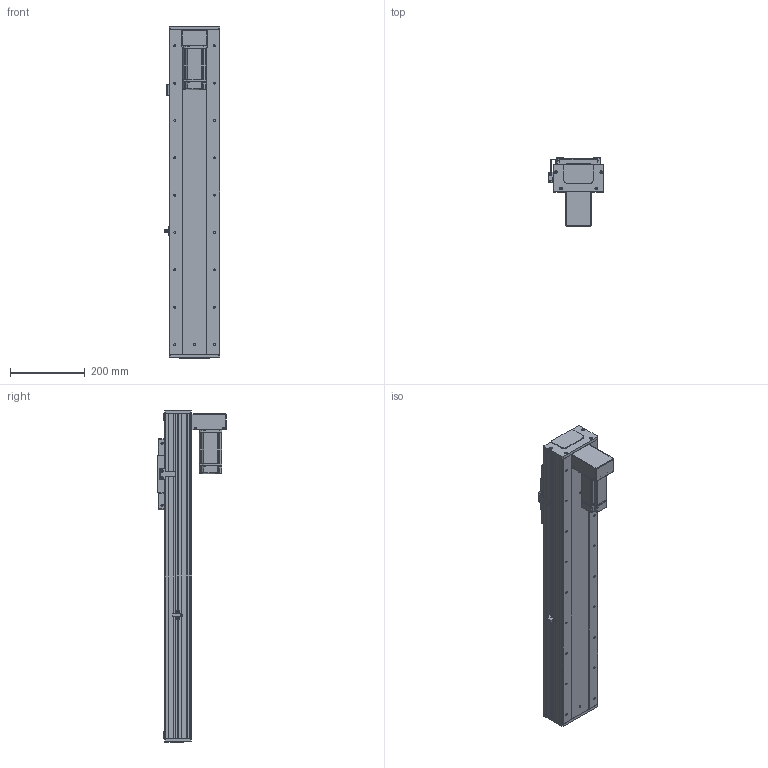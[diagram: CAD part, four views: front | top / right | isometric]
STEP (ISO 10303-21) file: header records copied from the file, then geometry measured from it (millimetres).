
FILE_DESCRIPTION (( 'STEP AP203' ), '1' );
FILE_NAME ('RY140F-L2020-300-BK.SLDASM_600.step', '2021-03-02T08:26:48', ( '盈信电脑' ), ( '东莞市道滘镇水果街19号' ), 'SwSTEP 2.0', 'SolidWorks 2012', '' );
FILE_SCHEMA (( 'CONFIG_CONTROL_DESIGN' ));
Length unit declared in the file: millimetre
Products named in the file (21): RY140F-直连型材铝滑块(16丝杆); RY140F-L2020-300-BK.SLDASM_600; 滅袉蝶18-10; RY140F-詩湍嘐隅輸; RY140F-狟殏萇儂啣(400W M5); RY140F-狟殏萇儂欶(400W); RY140F-詩湍揤え; 侐源滅袉蝶; RY140F-672覜茼んえ; 覜茼ん672; RY140F-后盖板(铝件）; 侂狟400W侜督萇儂; 15; 藻笠沭; RY140F-詩湍幗謫粣; RY100F-詩湍揤踡謫; RY140F-滅鳥奻裔; RY140F-300-BK倰第菁釱_600; RY140F-300-BK倰第奻裔啣_600; RY140F-直连型材铝滑块连接座; RY140F-300-BK蛌殏詩湍_600
Assembly tree (26 placements, depth 3):
  RY140F-L2020-300-BK.SLDASM_600
    RY140F-300-BK倰第菁釱_600
    RY140F-300-BK倰第奻裔啣_600  x2
    RY140F-300-BK蛌殏詩湍_600
    RY140F-直连型材铝滑块连接座
    RY140F-滅鳥奻裔
    RY140F-詩湍幗謫粣
    藻笠沭  x2
    RY100F-詩湍揤踡謫
    RY140F-后盖板(铝件）  x2
    侂狟400W侜督萇儂
      15
    覜茼ん672
    RY140F-672覜茼んえ
    RY140F-詩湍揤え  x2
    侐源滅袉蝶  x2
    RY140F-狟殏萇儂啣(400W M5)
    RY140F-狟殏萇儂欶(400W)
    RY140F-詩湍嘐隅輸
    滅袉蝶18-10  x2
    RY140F-直连型材铝滑块(16丝杆)
Bounding box: 148.7 x 184.5 x 889 mm (x, y, z)
Volume: 3629215.6 mm3; surface area: 1284914 mm2
Topology: 25 solids, 25 shells, 2008 faces, 5496 edges, 3508 vertices
Faces by surface type: cylinder 971, plane 811, cone 200, bspline 22, torus 4
Entity records: 63256 total; most frequent: CARTESIAN_POINT 13315, DIRECTION 10075, ORIENTED_EDGE 9820, EDGE_CURVE 4910, AXIS2_PLACEMENT_3D 3596, VERTEX_POINT 3212, VECTOR 2883, LINE 2883
